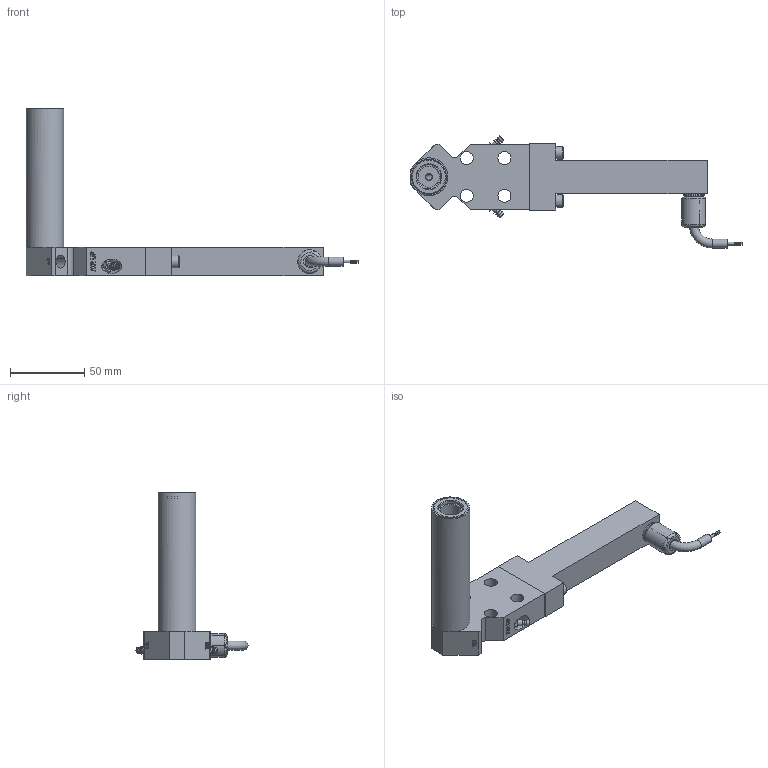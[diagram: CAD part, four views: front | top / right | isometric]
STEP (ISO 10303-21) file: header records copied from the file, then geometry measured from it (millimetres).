
FILE_DESCRIPTION(/* description */ ('ASSY,BODY,VF,LVDT,SXZR2,NHP,LEFT EXIT'),/* implementation_level */ '2;1');
FILE_NAME(/* name */ 'X:\ASSY,BODY,VF,LVDT,SXZR2,NHP,LEFT EXIT_0001582384.stp',/* time_stamp */ '2021-04-13T13:06:55-04:00',/* author */ ('Simon.Britton'),/* organization */ (''),/* preprocessor_version */ 'ST-DEVELOPER v17',/* originating_system */ 'Autodesk Inventor 2019',/* authorisation */ '');
FILE_SCHEMA (('AUTOMOTIVE_DESIGN { 1 0 10303 214 3 1 1 }'));
Length unit declared in the file: millimetre
Products named in the file (1): ASSY,BODY,VF,LVDT,SXZR2,NHP
Bounding box: 223.16 x 75.3 x 112.6 mm (x, y, z)
Volume: 124974.6 mm3; surface area: 66490.5 mm2
Topology: 2 solids, 9 shells, 560 faces, 1450 edges, 963 vertices
Faces by surface type: plane 342, cylinder 95, cone 52, bspline 50, torus 13, sphere 8
Full cylindrical faces by diameter (mm): 0.5 x4, 2 x1, 2.381 x4, 3.175 x1, 3.969 x2, 4 x3, 4.064 x2, 4.216 x4, 4.318 x2, 4.763 x3, 6 x2, 6.35 x2, 7.112 x3, 7.798 x1, 8 x1, 8.5 x2, 8.731 x6, 9.525 x2, 10 x1, 12.7 x1, 13.716 x1, 14 x2, 14.287 x1, 14.351 x1, 15.206 x1, 15.24 x2, 16 x1, 16.272 x1, 20.777 x4, 23.368 x4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
Entity records: 18878 total; most frequent: CARTESIAN_POINT 4664, ORIENTED_EDGE 2886, DIRECTION 2663, EDGE_CURVE 1443, VERTEX_POINT 961, AXIS2_PLACEMENT_3D 917, LINE 829, VECTOR 829
